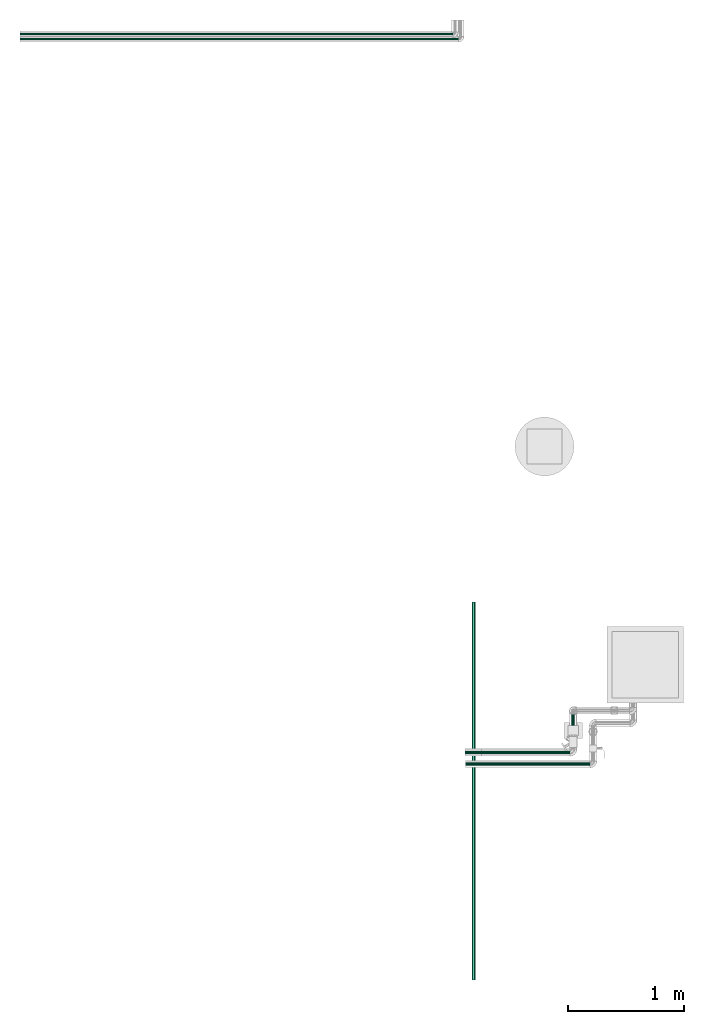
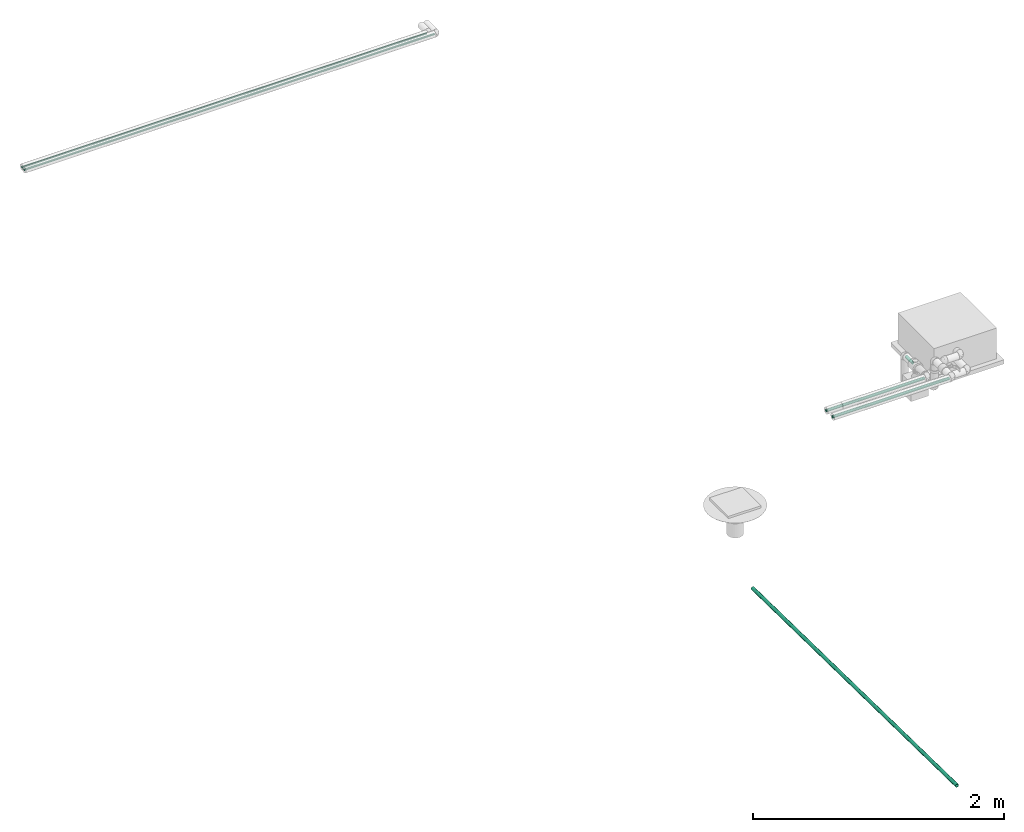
# One storey, part 5 of 13: 7 flow segments.
"""IFC2X3 building model written with IfcOpenShell, lengths in millimetres."""

from ifc_helpers import new_model, entity, si_unit, converted_unit, derived_unit, direction, frame, origin_with_axes, origin_2d_with_axis, place, context, subcontext, project, spatial, hollow_circle, extrude, source, transform, mapped, type_object, element, save


model = new_model("IFC2X3")

# Units and contexts
model_context = context("Model", 3, precision=0.01, world=frame((0.0, 4.29681676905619e-09, 0.0)), true_north=direction((4.01073788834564e-13, 1.0)))
plan_context = context("Plan", 3, precision=0.01, world=frame((0.0, 4.29681676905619e-09, 0.0)), true_north=direction((4.01073788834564e-13, 1.0)))
body_context = subcontext(model_context, "Body", "Model", "MODEL_VIEW")
ifc_project = project(units=[converted_unit("PLANEANGLEUNIT", "DEGREE", entity("IfcPositiveLengthMeasure", 0.0174532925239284), si_unit("PLANEANGLEUNIT", "RADIAN"), dimensions=[0, 0, 0, 0, 0, 0, 0]), si_unit("AREAUNIT", "SQUARE_METRE"), si_unit("LENGTHUNIT", "METRE", prefix="MILLI"), si_unit("MASSUNIT", "GRAM", prefix="KILO"), si_unit("POWERUNIT", "WATT"), si_unit("PRESSUREUNIT", "PASCAL"), si_unit("FORCEUNIT", "NEWTON", prefix="KILO"), si_unit("ELECTRICVOLTAGEUNIT", "VOLT"), si_unit("ELECTRICCURRENTUNIT", "AMPERE"), si_unit("THERMODYNAMICTEMPERATUREUNIT", "DEGREE_CELSIUS"), si_unit("TIMEUNIT", "SECOND"), si_unit("VOLUMEUNIT", "CUBIC_METRE"), derived_unit("LINEARVELOCITYUNIT", [(si_unit("LENGTHUNIT", "METRE"), 1), (si_unit("TIMEUNIT", "SECOND"), -1)]), derived_unit("VOLUMETRICFLOWRATEUNIT", [(si_unit("VOLUMEUNIT", "CUBIC_METRE"), 1), (si_unit("TIMEUNIT", "SECOND"), -1)]), derived_unit("THERMALTRANSMITTANCEUNIT", [(si_unit("POWERUNIT", "WATT"), 1), (si_unit("THERMODYNAMICTEMPERATUREUNIT", "KELVIN"), -1), (si_unit("AREAUNIT", "SQUARE_METRE"), -1)]), derived_unit("SOUNDPRESSUREUNIT", [(si_unit("PRESSUREUNIT", "PASCAL"), 1)])], contexts=[model_context, plan_context])

# Site, building, storey
site_placement = place(None, frame((0.0, -4.29681676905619e-09, 0.0), z_axis=(0.0, 0.0, 1.0), x_axis=(1.0, 0.0, 0.0)))
site = spatial("IfcSite", under=ifc_project, at=site_placement, Name="ENGM", CompositionType="ELEMENT")
building_placement = place(site_placement, frame((0.0, 4.29681676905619e-09, 0.0), z_axis=(0.0, 0.0, 1.0), x_axis=(1.0, 0.0, 0.0)))
building = spatial("IfcBuilding", under=site, at=building_placement, Name="TI", CompositionType="ELEMENT")
storey_placement = place(building_placement, frame((0.0, 0.0, 210900.0), z_axis=(0.0, 0.0, 1.0), x_axis=(1.0, 0.0, 0.0)))
storey = spatial("IfcBuildingStorey", under=building, at=storey_placement, Name="Nivå F", CompositionType="ELEMENT", Elevation=210900.0)

# Flow segments
pipe_segment_type_1 = type_object("IfcPipeSegmentType", Name="Stålrør normaltykke", PredefinedType="RIGIDSEGMENT")
shared_shape_1 = source(origin_with_axes(), body_context, "Body", "SweptSolid", [
    extrude(hollow_circle(Radius=13.3, WallThickness=2.0, at=origin_2d_with_axis()), frame((0.0, 0.0, 0.0), z_axis=(1.0, 0.0, 0.0), x_axis=(0.0, 1.0, 0.0)), (0.0, 0.0, 1.0), 762.8),
])
flow_segment_1_placement = place(storey_placement, frame((609296.5743, 691241.97914, 2740.0), z_axis=(0.0, 0.0, 1.0), x_axis=(1.0, 0.0, 0.0)))
element("IfcFlowSegment", 1, at=flow_segment_1_placement, inside=storey, type_object=pipe_segment_type_1, Name="Stålrør normaltykke", context=body_context, shape_type="MappedRepresentation", body=[
    mapped(shared_shape_1, transform((0.0, 0.0, 0.0), scale=1.0)),
])
shared_shape_2 = source(origin_with_axes(), body_context, "Body", "SweptSolid", [
    extrude(hollow_circle(Radius=13.3, WallThickness=2.0, at=origin_2d_with_axis()), frame((0.0, 0.0, 0.0), z_axis=(1.0, 0.0, 0.0), x_axis=(0.0, 1.0, 0.0)), (0.0, 0.0, 1.0), 1071.7),
])
flow_segment_2_placement = place(storey_placement, frame((609158.7743, 691141.97914, 2740.0), z_axis=(0.0, 0.0, 1.0), x_axis=(1.0, 0.0, 0.0)))
element("IfcFlowSegment", 2, at=flow_segment_2_placement, inside=storey, type_object=pipe_segment_type_1, Name="Stålrør normaltykke", context=body_context, shape_type="MappedRepresentation", body=[
    mapped(shared_shape_2, transform((0.0, 0.0, 0.0), scale=1.0)),
])
pipe_segment_type_2 = type_object("IfcPipeSegmentType", Name="Kobberrør", PredefinedType="RIGIDSEGMENT")
shared_shape_3 = source(origin_with_axes(), body_context, "Body", "SweptSolid", [
    extrude(hollow_circle(Radius=9.0, WallThickness=2.0, at=origin_2d_with_axis()), frame((0.0, 0.0, 0.0), z_axis=(1.0, 0.0, 0.0), x_axis=(0.0, 1.0, 0.0)), (0.0, 0.0, 1.0), 3722.0),
])
flow_segment_3_placement = place(storey_placement, frame((609051.65402, 697419.51267, 2700.0), z_axis=(0.0, 0.0, 1.0), x_axis=(-1.0, 0.0, 0.0)))
element("IfcFlowSegment", 3, at=flow_segment_3_placement, inside=storey, type_object=pipe_segment_type_2, Name="Kobberrør", context=body_context, shape_type="MappedRepresentation", body=[
    mapped(shared_shape_3, transform((0.0, 0.0, 0.0), scale=1.0)),
])
shared_shape_4 = source(origin_with_axes(), body_context, "Body", "SweptSolid", [
    extrude(hollow_circle(Radius=9.0, WallThickness=2.0, at=origin_2d_with_axis()), frame((0.0, 0.0, 0.0), z_axis=(1.0, 0.0, 0.0), x_axis=(0.0, 1.0, 0.0)), (0.0, 0.0, 1.0), 3772.0),
])
flow_segment_4_placement = place(storey_placement, frame((609099.81817, 697379.51267, 2700.0), z_axis=(0.0, 0.0, 1.0), x_axis=(-1.0, 0.0, 0.0)))
element("IfcFlowSegment", 4, at=flow_segment_4_placement, inside=storey, type_object=pipe_segment_type_2, Name="Kobberrør", context=body_context, shape_type="MappedRepresentation", body=[
    mapped(shared_shape_4, transform((0.0, 0.0, 0.0), scale=1.0)),
])
shared_shape_5 = source(origin_with_axes(), body_context, "Body", "SweptSolid", [
    extrude(hollow_circle(Radius=13.3, WallThickness=2.0, at=origin_2d_with_axis()), frame((0.0, 0.0, 0.0), z_axis=(1.0, 0.0, 0.0), x_axis=(0.0, 1.0, 0.0)), (0.0, 0.0, 1.0), 140.0),
])
flow_segment_5_placement = place(storey_placement, frame((609156.5743, 691241.97914, 2740.0), z_axis=(0.0, 0.0, 1.0), x_axis=(1.0, 0.0, 0.0)))
element("IfcFlowSegment", 5, at=flow_segment_5_placement, inside=storey, type_object=pipe_segment_type_1, Name="Stålrør normaltykke", context=body_context, shape_type="MappedRepresentation", body=[
    mapped(shared_shape_5, transform((0.0, 0.0, 0.0), scale=1.0)),
])
pipe_segment_type_3 = type_object("IfcPipeSegmentType", Name="PP avløpsrør", PredefinedType="RIGIDSEGMENT")
shared_shape_6 = source(origin_with_axes(), body_context, "Body", "SweptSolid", [
    extrude(hollow_circle(Radius=16.0, WallThickness=2.0, at=origin_2d_with_axis()), frame((0.0, 0.0, 0.0), z_axis=(1.0, 0.0, 0.0), x_axis=(0.0, 1.0, 0.0)), (0.0, 0.0, 1.0), 3253.5),
])
flow_segment_6_placement = place(storey_placement, frame((609230.2665, 689283.67643, 257.483059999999), z_axis=(0.0, 0.0166640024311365, 0.999861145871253), x_axis=(0.0, 0.999861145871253, -0.0166640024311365)))
element("IfcFlowSegment", 6, at=flow_segment_6_placement, inside=storey, type_object=pipe_segment_type_3, Name="PP avløpsrør", context=body_context, shape_type="MappedRepresentation", body=[
    mapped(shared_shape_6, transform((0.0, 0.0, 0.0), scale=1.0)),
])
shared_shape_7 = source(origin_with_axes(), body_context, "Body", "SweptSolid", [
    extrude(hollow_circle(Radius=13.3, WallThickness=2.0, at=origin_2d_with_axis()), frame((0.0, 0.0, 0.0), z_axis=(1.0, 0.0, 0.0), x_axis=(0.0, 1.0, 0.0)), (0.0, 0.0, 1.0), 103.2),
])
flow_segment_7_placement = place(storey_placement, frame((610086.18538, 691470.60738, 2740.0), z_axis=(0.0, 0.0, 1.0), x_axis=(0.0, 1.0, 0.0)))
element("IfcFlowSegment", 7, at=flow_segment_7_placement, inside=storey, type_object=pipe_segment_type_1, Name="Stålrør normaltykke", context=body_context, shape_type="MappedRepresentation", body=[
    mapped(shared_shape_7, transform((0.0, 0.0, 0.0), scale=1.0)),
])

save(model, "model.ifc")
